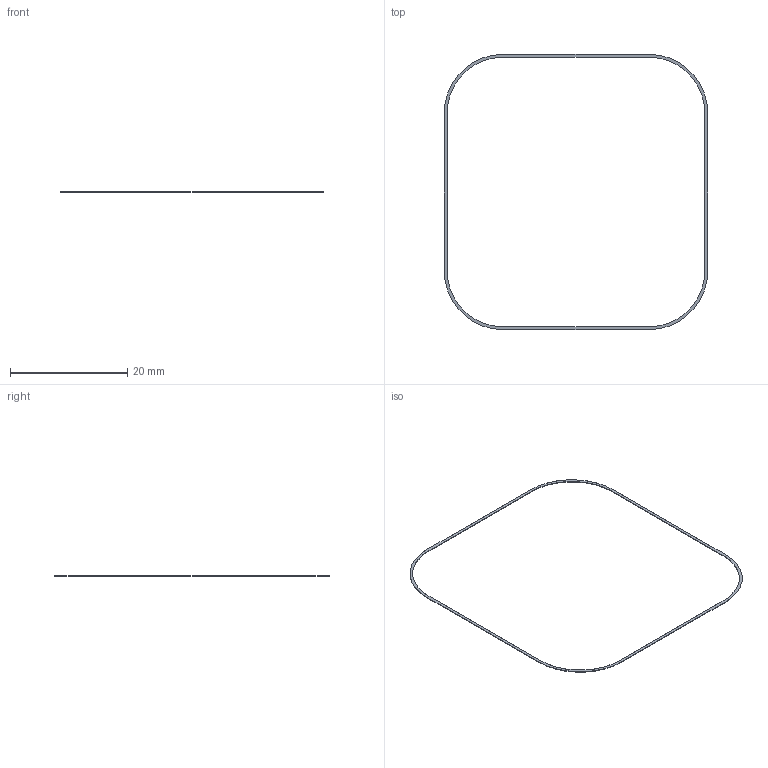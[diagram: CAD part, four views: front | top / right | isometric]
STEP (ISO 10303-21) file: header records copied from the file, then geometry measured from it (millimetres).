
FILE_DESCRIPTION(/* description */ (''),/* implementation_level */ '2;1');
FILE_NAME(/* name */ 'C28_R1_59_Mesh_Edge_Bond_Film.step',/* time_stamp */ '2026-09-10T17:49:44-07:00',/* author */ (''),/* organization */ (''),/* preprocessor_version */ 'ST-DEVELOPER v20.1',/* originating_system */ 'Autodesk Translation Framework v15.8.0.0',/* authorisation */ '');
FILE_SCHEMA (('AUTOMOTIVE_DESIGN { 1 0 10303 214 3 1 1 }'));
Length unit declared in the file: millimetre
Products named in the file (1): 2026-09-10-17-49-44-913
Bounding box: 45 x 47 x 0.09 mm (x, y, z)
Volume: 7.4 mm3; surface area: 195 mm2
Topology: 1 solids, 1 shells, 18 faces, 48 edges, 32 vertices
Faces by surface type: plane 10, cylinder 8
Entity records: 605 total; most frequent: DIRECTION 102, CARTESIAN_POINT 99, ORIENTED_EDGE 96, EDGE_CURVE 48, AXIS2_PLACEMENT_3D 35, LINE 32, VECTOR 32, VERTEX_POINT 32
